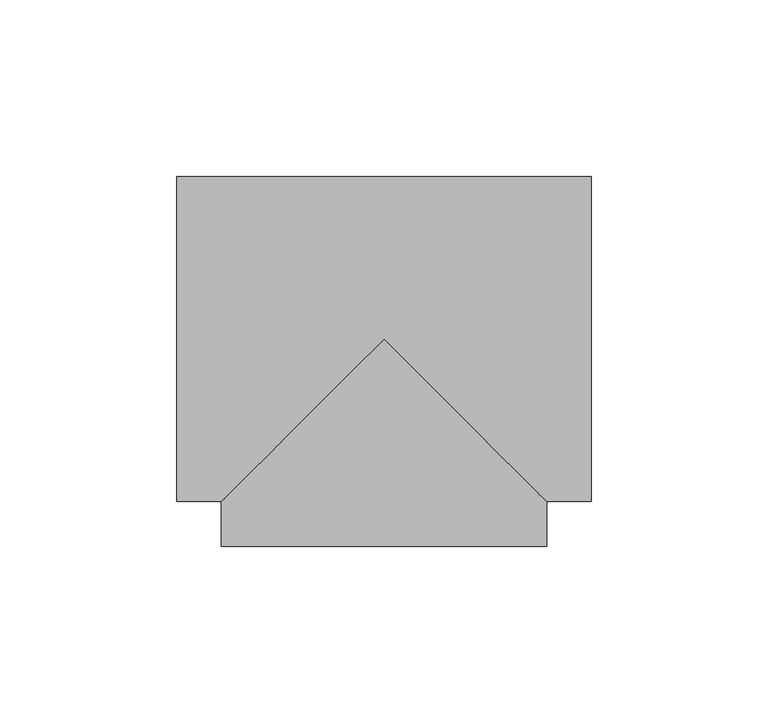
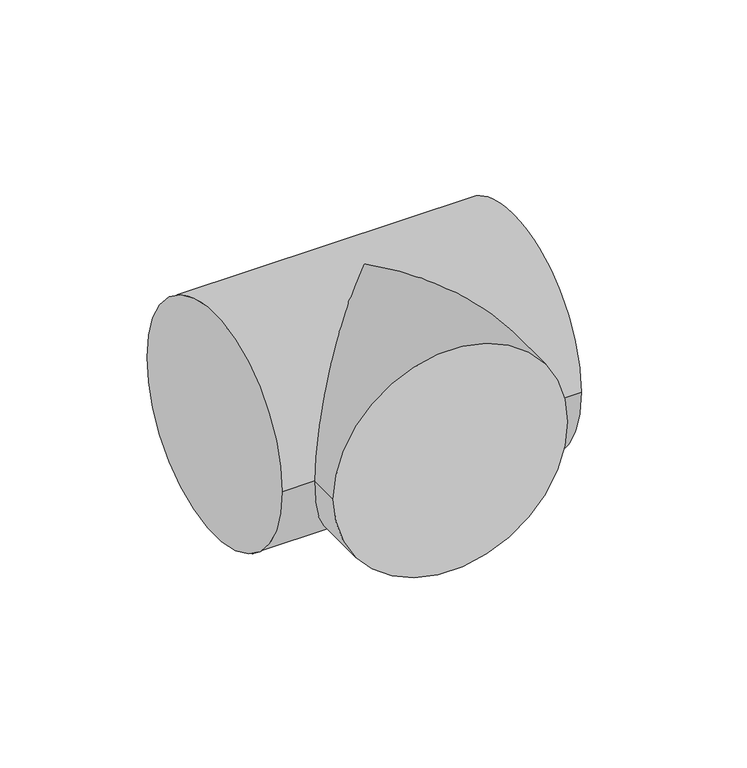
"""IFC4 building model written with IfcOpenShell, lengths in millimetres: pipe fitting geometry, M_Te - Genérica : Estándar."""

from ifc_helpers import new_model, si_unit, frame, origin, place, context, project, spatial, circle_curve, ellipse_curve, source, transform, mapped, element, save
from ifc_brep_helpers import plane_surface, cylinder_surface, advanced_brep


def pipe_fitting_8c00643b(model_context):
    return source(origin(), model_context, "Body", "AdvancedBrep", [
        advanced_brep(
        [(-58.7375, -46.0375, 0.0), (-58.7375, 46.0375, 0.0), (58.7375, -46.0375, 0.0), (58.7375, 46.0375, 0.0), (-46.0374993, -46.0375, 0.0), (0.0, 0.0, 46.0375), (46.0375007, -46.0375, 0.0), (0.0, 0.0, -46.0375), (-46.0374991, -58.7375007, 0.0), (46.0375009, -58.7374993, 0.0)],
        [
            (0, 1, circle_curve(frame((-58.7375, 0.0, 0.0), z_axis=(-1.0, 0.0, 0.0), x_axis=(0.0, 1.0, 0.0)), 46.0375)),
            (1, 0, circle_curve(frame((-58.7375, 0.0, 0.0), z_axis=(-1.0, 0.0, 0.0), x_axis=(0.0, 1.0, 0.0)), 46.0375)),
            (2, 3, circle_curve(frame((58.7375, 0.0, 0.0), z_axis=(1.0, 0.0, 0.0), x_axis=(0.0, 1.0, 0.0)), 46.0375)),
            (3, 2, circle_curve(frame((58.7375, 0.0, 0.0), z_axis=(1.0, 0.0, 0.0), x_axis=(0.0, 1.0, 0.0)), 46.0375)),
            (0, 4),
            (4, 5, ellipse_curve(frame((0.0, 0.0, 0.0), z_axis=(-0.7071067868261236, 0.7071067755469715, 0.0), x_axis=(-0.7071067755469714, -0.7071067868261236, 0.0)), 65.1068564, 46.0375)),
            (5, 6, ellipse_curve(frame((0.0, 0.0, 0.0), z_axis=(0.7071067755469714, 0.7071067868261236, 0.0), x_axis=(-0.7071067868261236, 0.7071067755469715, 0.0)), 65.1068574, 46.0375)),
            (6, 2),
            (3, 1),
            (6, 7, ellipse_curve(frame((0.0, 0.0, 0.0), z_axis=(0.7071067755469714, 0.7071067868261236, 0.0), x_axis=(-0.7071067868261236, 0.7071067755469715, 0.0)), 65.1068574, 46.0375)),
            (7, 4, ellipse_curve(frame((0.0, 0.0, 0.0), z_axis=(-0.7071067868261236, 0.7071067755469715, 0.0), x_axis=(-0.7071067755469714, -0.7071067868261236, 0.0)), 65.1068564, 46.0375)),
            (8, 9, circle_curve(frame((9e-07, -58.7375, 0.0), z_axis=(1.5951133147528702e-08, -1.0, 0.0), x_axis=(1.0, 1.5951133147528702e-08, 0.0)), 46.0375)),
            (9, 8, circle_curve(frame((9e-07, -58.7375, 0.0), z_axis=(1.5951133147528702e-08, -1.0, 0.0), x_axis=(1.0, 1.5951133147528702e-08, 0.0)), 46.0375)),
            (9, 6),
            (4, 8),
        ],
        [
            plane_surface(frame((-58.7375, 0.0, 0.0), z_axis=(-1.0, 0.0, 0.0), x_axis=(0.0, 0.0, 1.0))),
            plane_surface(frame((58.7375, 0.0, 0.0), z_axis=(1.0, 0.0, 0.0), x_axis=(0.0, 0.0, 1.0))),
            cylinder_surface(frame((-58.7375, 0.0, 0.0), z_axis=(-1.0, 0.0, 0.0), x_axis=(0.0, 1.0, 0.0)), 46.0375),
            plane_surface(frame((9e-07, -58.7375, 0.0), z_axis=(1.5951133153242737e-08, -1.0, 0.0), x_axis=(0.0, 0.0, 1.0))),
            cylinder_surface(frame((0.0, 0.0, 0.0), z_axis=(-1.5951133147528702e-08, 1.0, 0.0), x_axis=(1.0, 1.5951133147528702e-08, 0.0)), 46.0375),
        ],
        [
            (0, [[1, 2]]),
            (1, [[3, 4]]),
            (2, [[-1, 5, 6, 7, 8, -4, 9]]),
            (2, [[-2, -9, -3, -8, 10, 11, -5]]),
            (3, [[12, 13]]),
            (4, [[-13, 14, -7, -6, 15]]),
            (4, [[-12, -15, -11, -10, -14]]),
        ],
    ),
    ])


if __name__ == "__main__":
    model = new_model("IFC4")
    model_context = context("Model", 3, world=origin())
    ifc_project = project(units=[si_unit("LENGTHUNIT", "METRE", prefix="MILLI")], contexts=[model_context])
    site = spatial("IfcSite", under=ifc_project)
    building = spatial("IfcBuilding", under=site)
    placement = place(None, origin())
    pipe_fitting_shape = pipe_fitting_8c00643b(model_context)
    element("IfcPipeFitting", 1, ObjectType="M_Te - Genérica : Estándar", at=placement, inside=building, context=model_context, shape_type="MappedRepresentation", body=[
        mapped(pipe_fitting_shape, transform((0.0, 0.0, 0.0), x_axis=(1.0, 0.0, 0.0), y_axis=(0.0, 1.0, 0.0), z_axis=(0.0, 0.0, 1.0))),
    ])
    save(model, "model.ifc")
